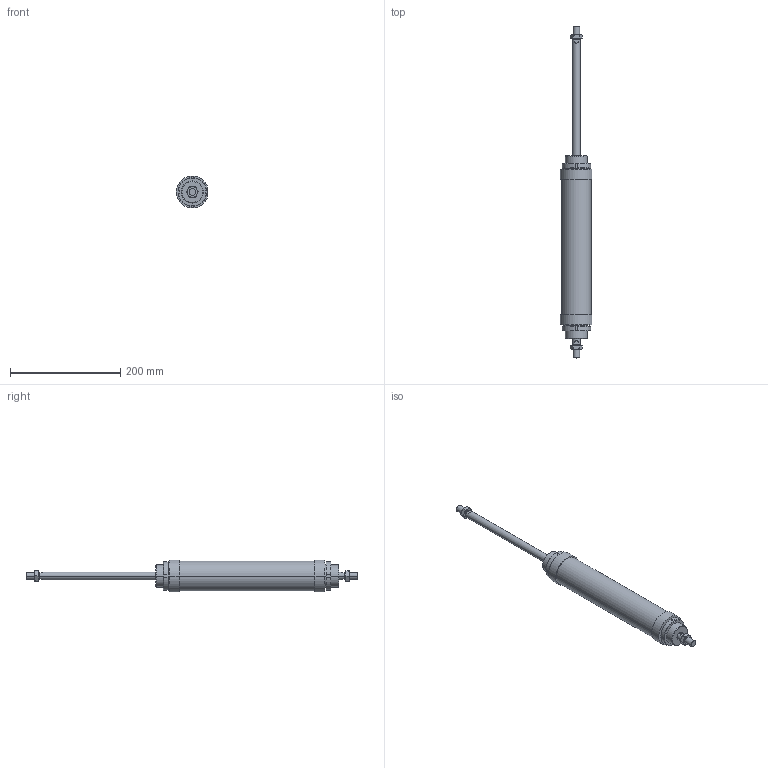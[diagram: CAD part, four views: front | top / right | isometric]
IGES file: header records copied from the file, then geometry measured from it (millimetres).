
Global section: file name: No Iges File Name specified; native system: AutoDesk Inventor R6.0; preprocessor: AutoDesk Inventor Iges Exporter R6.0; author: No Author specified; organization: No Organization specified; date: 20030403.073030; units: millimetre
Bounding box: 56.6 x 602 x 57.85 mm (x, y, z)
Volume: 776453 mm3; surface area: 112900.7 mm2
Topology: 6 solids, 6 shells, 182 faces, 424 edges, 264 vertices
Faces by surface type: plane 66, cone 52, bspline 30, cylinder 28, revolution 6
